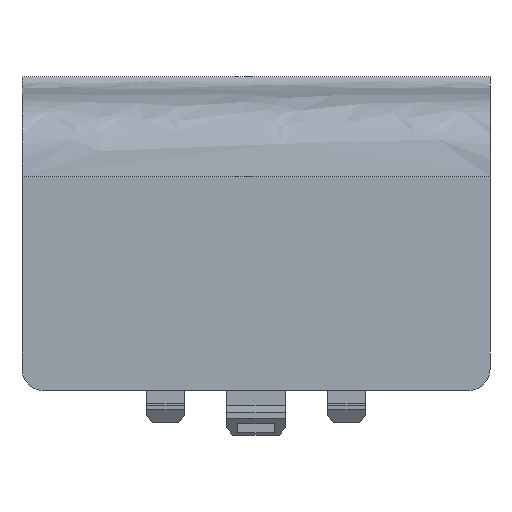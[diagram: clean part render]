
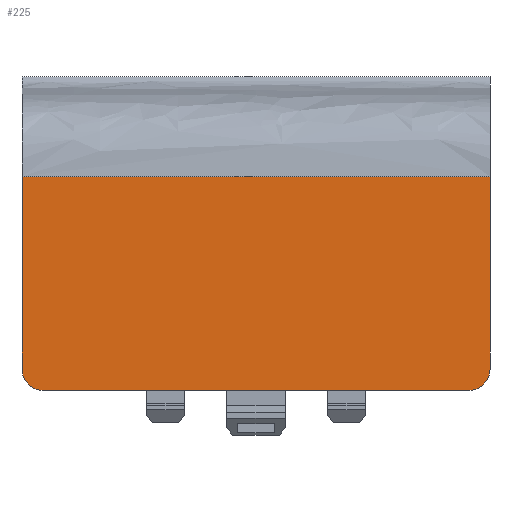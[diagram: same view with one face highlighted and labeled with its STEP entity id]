
A CAD part, front view. The second image highlights one B-rep face of the part: STEP entity #225.
In plain terms, the highlighted planar face has unit normal (0, -1, 0).
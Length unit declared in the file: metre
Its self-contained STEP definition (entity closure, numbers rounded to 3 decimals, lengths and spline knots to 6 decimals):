
#225 = ADVANCED_FACE( '', ( #519 ), #520, .F. );
#519 = FACE_OUTER_BOUND( '', #881, .T. );
#520 = PLANE( '', #882 );
#881 = EDGE_LOOP( '', ( #1595, #1596, #1597, #1598, #1599, #1600 ) );
#882 = AXIS2_PLACEMENT_3D( '', #1601, #1602, #1603 );
#1595 = ORIENTED_EDGE( '', *, *, #2664, .F. );
#1596 = ORIENTED_EDGE( '', *, *, #2665, .T. );
#1597 = ORIENTED_EDGE( '', *, *, #2545, .T. );
#1598 = ORIENTED_EDGE( '', *, *, #2666, .T. );
#1599 = ORIENTED_EDGE( '', *, *, #2667, .T. );
#1600 = ORIENTED_EDGE( '', *, *, #2483, .F. );
#1601 = CARTESIAN_POINT( '', ( -0.027788, 0., 0.018659 ) );
#1602 = DIRECTION( '', ( 0., 1., 0. ) );
#1603 = DIRECTION( '', ( 0., 0., 1. ) );
#2483 = EDGE_CURVE( '', #3005, #3000, #3007, .T. );
#2545 = EDGE_CURVE( '', #3110, #3111, #3112, .T. );
#2664 = EDGE_CURVE( '', #3297, #3005, #3298, .T. );
#2665 = EDGE_CURVE( '', #3297, #3110, #3299, .F. );
#2666 = EDGE_CURVE( '', #3111, #3300, #3301, .F. );
#2667 = EDGE_CURVE( '', #3300, #3000, #3302, .T. );
#3000 = VERTEX_POINT( '', #3744 );
#3005 = VERTEX_POINT( '', #3753 );
#3007 = LINE( '', #3758, #3759 );
#3110 = VERTEX_POINT( '', #3988 );
#3111 = VERTEX_POINT( '', #3989 );
#3112 = LINE( '', #3990, #3991 );
#3297 = VERTEX_POINT( '', #4423 );
#3298 = LINE( '', #4424, #4425 );
#3299 = CIRCLE( '', #4426, 0.00254 );
#3300 = VERTEX_POINT( '', #4427 );
#3301 = CIRCLE( '', #4428, 0.00254 );
#3302 = LINE( '', #4429, #4430 );
#3744 = CARTESIAN_POINT( '', ( 0.027788, 0., 0.0254 ) );
#3753 = CARTESIAN_POINT( '', ( -0.027788, 0., 0.0254 ) );
#3758 = CARTESIAN_POINT( '', ( -0.027788, 0., 0.0254 ) );
#3759 = VECTOR( '', #4892, 1. );
#3988 = CARTESIAN_POINT( '', ( -0.025248, 0., 0. ) );
#3989 = CARTESIAN_POINT( '', ( 0.025248, 0., 0. ) );
#3990 = CARTESIAN_POINT( '', ( -0.027788, 0., 0. ) );
#3991 = VECTOR( '', #4943, 1. );
#4423 = CARTESIAN_POINT( '', ( -0.027788, 0., 0.00254 ) );
#4424 = CARTESIAN_POINT( '', ( -0.027788, 0., 0.018659 ) );
#4425 = VECTOR( '', #5024, 1. );
#4426 = AXIS2_PLACEMENT_3D( '', #5025, #5026, #5027 );
#4427 = CARTESIAN_POINT( '', ( 0.027788, 0., 0.00254 ) );
#4428 = AXIS2_PLACEMENT_3D( '', #5028, #5029, #5030 );
#4429 = CARTESIAN_POINT( '', ( 0.027788, 0., 0.018659 ) );
#4430 = VECTOR( '', #5031, 1. );
#4892 = DIRECTION( '', ( 1., 0., 0. ) );
#4943 = DIRECTION( '', ( 1., 0., 0. ) );
#5024 = DIRECTION( '', ( 0., 0., 1. ) );
#5025 = CARTESIAN_POINT( '', ( -0.025248, 0., 0.00254 ) );
#5026 = DIRECTION( '', ( 0., 1., 0. ) );
#5027 = DIRECTION( '', ( 0., 0., 1. ) );
#5028 = CARTESIAN_POINT( '', ( 0.025248, 0., 0.00254 ) );
#5029 = DIRECTION( '', ( 0., 1., 0. ) );
#5030 = DIRECTION( '', ( 0., 0., 1. ) );
#5031 = DIRECTION( '', ( 0., 0., 1. ) );
